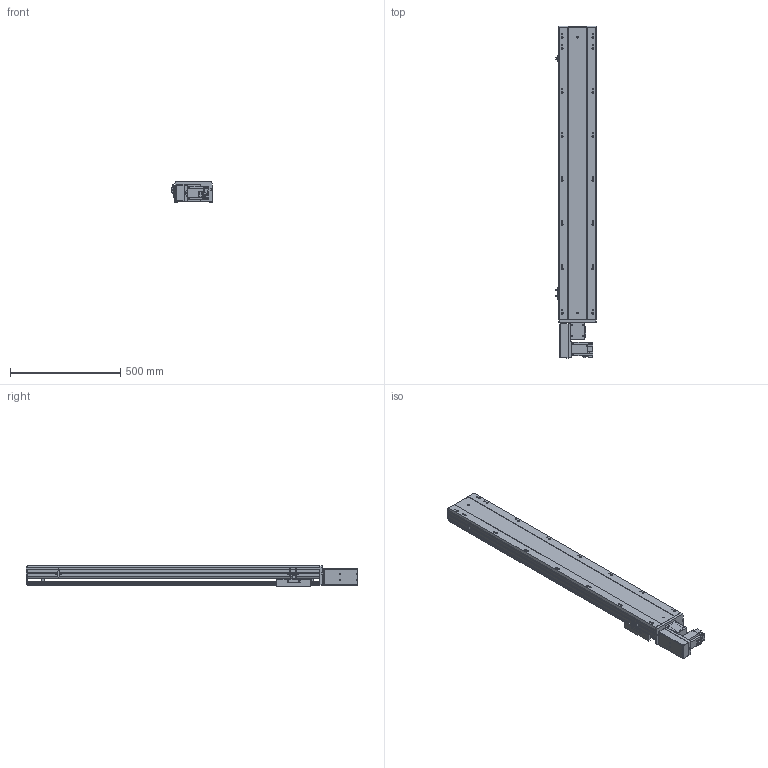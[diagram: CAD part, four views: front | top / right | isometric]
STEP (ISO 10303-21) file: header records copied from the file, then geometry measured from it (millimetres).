
FILE_DESCRIPTION (( 'STEP AP203' ), '1' );
FILE_NAME ('BTB17-L40-1050-R-M40-C4.STEP', '2022-07-20T06:33:35', ( 'CXY' ), ( 'BT' ), 'SwSTEP 2.0', 'SolidWorks 2016', '' );
FILE_SCHEMA (( 'CONFIG_CONTROL_DESIGN' ));
Length unit declared in the file: millimetre
Products named in the file (11): BTB17-L-菁釱_XD; BTB17-L40-1050-R-M40-C4; M40; BTB17-L-23; FS-08-T40; BTB17-L-01; BTB17-L-04; FS-07-T40(1); BTB17-L-24; BTB17-L-HZ; BTB17-L-06
Assembly tree (13 placements, depth 2):
  BTB17-L40-1050-R-M40-C4
    BTB17-L-菁釱_XD
    BTB17-L-01
    BTB17-L-04  x3
    BTB17-L-06
    BTB17-L-23  x2
    BTB17-L-24
    BTB17-L-HZ
    FS-07-T40(1)
    FS-08-T40
    M40
Bounding box: 183.7 x 1504.5 x 97 mm (x, y, z)
Volume: 12160378.5 mm3; surface area: 1665361.4 mm2
Topology: 22 solids, 22 shells, 1633 faces, 4295 edges, 2722 vertices
Faces by surface type: plane 909, cylinder 536, cone 156, torus 16, bspline 16
Entity records: 42514 total; most frequent: CARTESIAN_POINT 8338, DIRECTION 6953, ORIENTED_EDGE 6734, EDGE_CURVE 3367, AXIS2_PLACEMENT_3D 2359, VECTOR 2235, LINE 2235, VERTEX_POINT 2190
